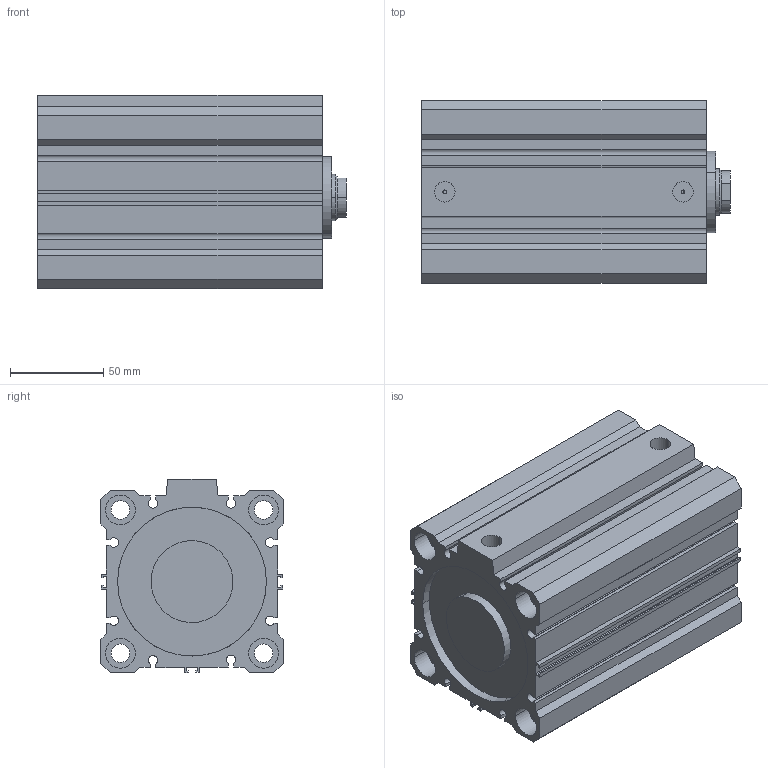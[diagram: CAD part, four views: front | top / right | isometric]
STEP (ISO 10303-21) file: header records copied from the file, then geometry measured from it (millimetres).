
FILE_DESCRIPTION(('CATIA V5 STEP Exchange'),'2;1');
FILE_NAME('D:\PDA\PDA-STP\PDA 80-25\PDA 80-25-100.stp','2016-02-02T11:05:24+00:00',('none'),('none'),'Version 5-6 Release 2012','CATIA V5 STEP AP203','none');
FILE_SCHEMA(('CONFIG_CONTROL_DESIGN'));
Length unit declared in the file: millimetre
Products named in the file (1): PDA 80-25-100-00
Assembly tree (2 placements, depth 2):
  PDA 80-25-100-00
    #58
    #4708
Bounding box: 166 x 98 x 104 mm (x, y, z)
Volume: 774075.7 mm3; surface area: 195948 mm2
Topology: 2 solids, 2 shells, 180 faces, 476 edges, 316 vertices
Faces by surface type: plane 114, cylinder 64, cone 2
Entity records: 5177 total; most frequent: ORIENTED_EDGE 952, CARTESIAN_POINT 932, DIRECTION 676, EDGE_CURVE 476, VECTOR 334, LINE 334, VERTEX_POINT 316, AXIS2_PLACEMENT_3D 238
